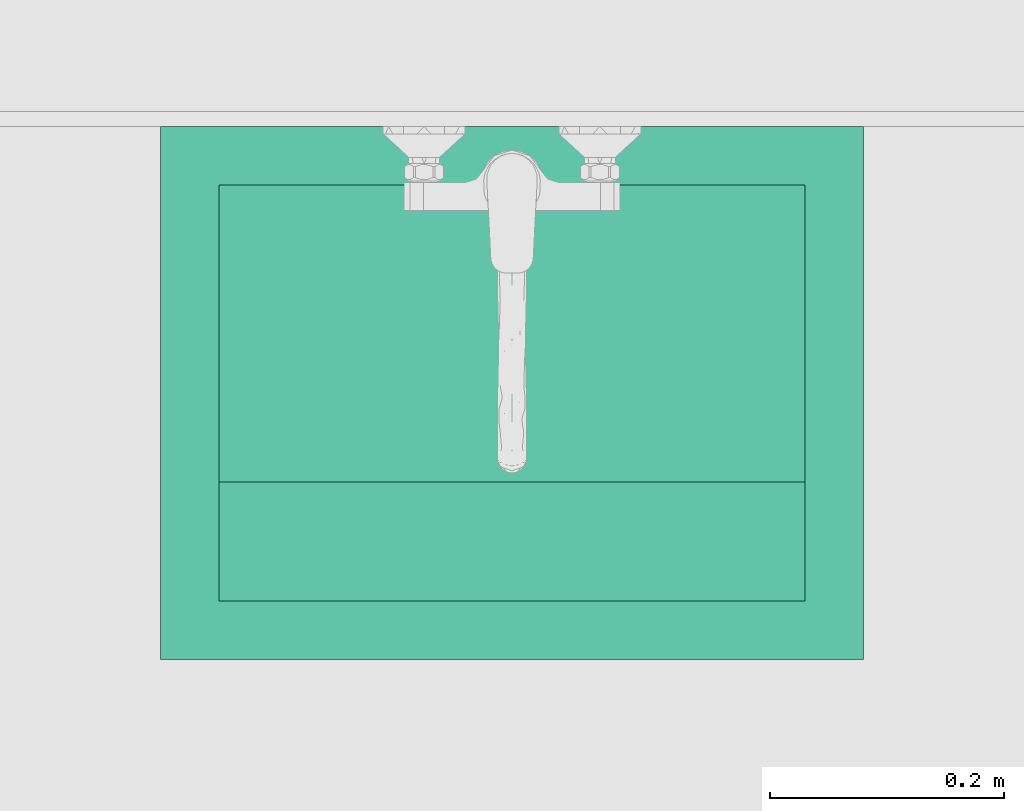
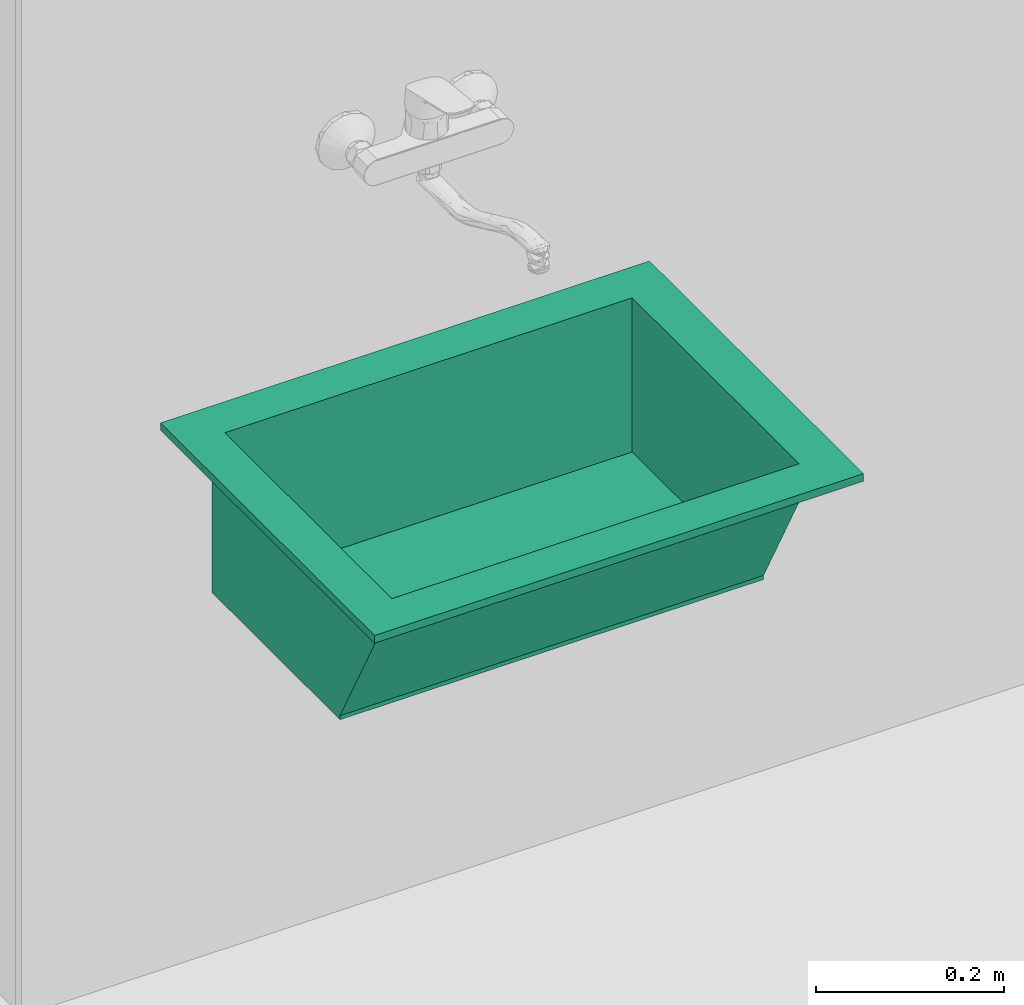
# One storey, part 28 of 67: 1 flow terminal.
"""IFC4 building model written with IfcOpenShell, lengths in millimetres."""

import ifcopenshell
import ifcopenshell.guid

model = None  # the IFC model being written
_history = None  # IfcOwnerHistory: only IFC2X3 demands one
_inside = {}  # id of a spatial element -> (the spatial element, [elements in it])
_under = {}  # id of a project, library or spatial element -> (it, [spatial elements below it])
_declared = {}  # id of a project -> (the project, [libraries it declares])
_typed = {}  # id of a type object -> (the type object, [elements of that type])
_made_of = {}  # id of a material, layer set ... -> (it, [elements and type objects made of it])


def new_model(schema):
    """Start an empty IFC model of exactly this schema.

    Asked for "IFC4X3", IfcOpenShell would pick the latest addendum, in which some entities
    have other attributes; the version numbers below select the first issue.
    IFC2X3 requires an IfcOwnerHistory on every rooted entity: one is made here for all.
    """
    global model, _history
    if schema == "IFC4X3":
        model = ifcopenshell.file(schema_version=(4, 3, 0, 0))
    else:
        model = ifcopenshell.file(schema=schema)
    _inside.clear()
    _under.clear()
    _declared.clear()
    _typed.clear()
    _made_of.clear()
    _history = None
    if model.schema == "IFC2X3":
        org = make("IfcOrganization", Name="unknown")
        user = make(
            "IfcPersonAndOrganization",
            ThePerson=make("IfcPerson", FamilyName="unknown"),
            TheOrganization=org,
        )
        app = make(
            "IfcApplication",
            ApplicationDeveloper=org,
            Version="unknown",
            ApplicationFullName="unknown",
            ApplicationIdentifier="unknown",
        )
        _history = make(
            "IfcOwnerHistory",
            OwningUser=user,
            OwningApplication=app,
            ChangeAction="ADDED",
            CreationDate=0,
        )
    return model


def make(cls, **values):
    """One entity of the class cls with the attributes given. An attribute that is None is left unset."""
    return model.create_entity(
        cls, **{name: value for name, value in values.items() if value is not None}
    )


def entity(cls, *values):
    """Any entity or typed value of the class cls, its attributes in the order of the schema. None: left unset."""
    e = model.create_entity(cls)
    for i, value in enumerate(values):
        if value is not None:
            e[i] = value
    return e


def rooted(cls, **values):
    """An entity with a GlobalId (a new one), such as an element, a storey or a relation."""
    return make(cls, GlobalId=ifcopenshell.guid.new(), OwnerHistory=_history, **values)


def si_unit(unit_type, name, prefix=None):
    """IfcSIUnit, for example si_unit("LENGTHUNIT", "METRE", prefix="MILLI")."""
    return make("IfcSIUnit", UnitType=unit_type, Prefix=prefix, Name=name)


def converted_unit(unit_type, name, factor, base, dimensions=None, offset=None):
    """IfcConversionBasedUnit, such as the inch: factor (a typed value) times the base unit."""
    return make(
        "IfcConversionBasedUnit"
        if offset is None
        else "IfcConversionBasedUnitWithOffset",
        ConversionOffset=offset,
        Dimensions=None
        if dimensions is None
        else entity("IfcDimensionalExponents", *dimensions),
        UnitType=unit_type,
        Name=name,
        ConversionFactor=make(
            "IfcMeasureWithUnit", ValueComponent=factor, UnitComponent=base
        ),
    )


def assignment(units):
    """IfcUnitAssignment: the units of a project."""
    return None if units is None else make("IfcUnitAssignment", Units=units)


def point(xyz):
    """IfcCartesianPoint."""
    return None if xyz is None else make("IfcCartesianPoint", Coordinates=xyz)


def direction(xyz):
    """IfcDirection."""
    return None if xyz is None else make("IfcDirection", DirectionRatios=xyz)


def frame(location, z_axis=None, x_axis=None):
    """IfcAxis2Placement3D, a coordinate frame: its origin and axes. An axis left out is left unset."""
    return make(
        "IfcAxis2Placement3D",
        Location=point(location),
        Axis=direction(z_axis),
        RefDirection=direction(x_axis),
    )


def origin():
    """The frame at (0, 0, 0) with its axes left unset."""
    return frame((0.0, 0.0, 0.0))


def place(relative_to, where):
    """IfcLocalPlacement: puts the frame where relative to a parent placement (None: the world)."""
    return make(
        "IfcLocalPlacement", PlacementRelTo=relative_to, RelativePlacement=where
    )


def context(
    kind, dimensions, precision=None, world=None, true_north=None, identifier=None
):
    """IfcGeometricRepresentationContext, for example the 3D "Model" context."""
    return make(
        "IfcGeometricRepresentationContext",
        ContextIdentifier=identifier,
        ContextType=kind,
        CoordinateSpaceDimension=dimensions,
        Precision=precision,
        WorldCoordinateSystem=world,
        TrueNorth=true_north,
    )


def subcontext(parent, identifier, kind, view, scale=None):
    """IfcGeometricRepresentationSubContext, for example "Body" below "Model"."""
    return make(
        "IfcGeometricRepresentationSubContext",
        ContextIdentifier=identifier,
        ContextType=kind,
        ParentContext=parent,
        TargetScale=scale,
        TargetView=view,
    )


def project(units=None, contexts=None):
    """IfcProject with its units and contexts."""
    return rooted(
        "IfcProject",
        Name="project",
        RepresentationContexts=contexts,
        UnitsInContext=assignment(units),
    )


def spatial(cls, under=None, at=None, **own):
    """A site, building, storey or space (cls), placed at a placement, below another one or the project."""
    s = rooted(cls, ObjectPlacement=at, **own)
    if under is not None:
        _under.setdefault(under.id(), (under, []))[1].append(s)
    return s


def point_list(points):
    """IfcCartesianPointList2D or 3D."""
    cls = (
        "IfcCartesianPointList2D" if len(points[0]) == 2 else "IfcCartesianPointList3D"
    )
    return make(cls, CoordList=points)


def indexed_curve(points, segments=None, self_intersect=None):
    """IfcIndexedPolyCurve: lines and arcs through numbered points (the first is 1)."""
    return make(
        "IfcIndexedPolyCurve",
        Points=point_list(points),
        Segments=segments,
        SelfIntersect=self_intersect,
    )


def outline(outer, holes=None, kind="AREA"):
    """IfcArbitraryClosedProfileDef: a profile drawn as a closed curve; with holes, ...WithVoids."""
    if holes is None:
        return make("IfcArbitraryClosedProfileDef", ProfileType=kind, OuterCurve=outer)
    return make(
        "IfcArbitraryProfileDefWithVoids",
        ProfileType=kind,
        OuterCurve=outer,
        InnerCurves=holes,
    )


def extrude(swept, where, along, depth):
    """IfcExtrudedAreaSolid: the profile swept, set in the frame where, extruded along a direction by depth."""
    return make(
        "IfcExtrudedAreaSolid",
        SweptArea=swept,
        Position=where,
        ExtrudedDirection=direction(along),
        Depth=depth,
    )


def shape(context_of_items, identifier, shape_type, items):
    """IfcShapeRepresentation: the items that make up one representation, for example the "Body"."""
    return make(
        "IfcShapeRepresentation",
        ContextOfItems=context_of_items,
        RepresentationIdentifier=identifier,
        RepresentationType=shape_type,
        Items=items,
    )


def source(mapping_origin, context_of_items, identifier, shape_type, items):
    """IfcRepresentationMap: a shape defined once, which mapped items show again and again."""
    return make(
        "IfcRepresentationMap",
        MappingOrigin=mapping_origin,
        MappedRepresentation=shape(context_of_items, identifier, shape_type, items),
    )


def transform(
    local_origin,
    x_axis=None,
    y_axis=None,
    z_axis=None,
    scale=None,
    scale2=None,
    scale3=None,
    uniform=True,
):
    """IfcCartesianTransformationOperator3D, or its non-uniform kind. x_axis, y_axis, z_axis: its Axis1, 2, 3."""
    if uniform:
        return make(
            "IfcCartesianTransformationOperator3D",
            Axis1=direction(x_axis),
            Axis2=direction(y_axis),
            LocalOrigin=point(local_origin),
            Scale=scale,
            Axis3=direction(z_axis),
        )
    return make(
        "IfcCartesianTransformationOperator3DnonUniform",
        Axis1=direction(x_axis),
        Axis2=direction(y_axis),
        LocalOrigin=point(local_origin),
        Scale=scale,
        Axis3=direction(z_axis),
        Scale2=scale2,
        Scale3=scale3,
    )


def mapped(mapping_source, mapping_target):
    """IfcMappedItem: shows the shape of a source again, moved by a transform."""
    return make(
        "IfcMappedItem", MappingSource=mapping_source, MappingTarget=mapping_target
    )


def material(Name=None, Category=None):
    """IfcMaterial."""
    return make("IfcMaterial", Name=Name, Category=Category)


def made_of(thing, what):
    """Note that an element or type object is made of a material, layer set ...; save() writes the relation."""
    if what is not None:
        _made_of.setdefault(what.id(), (what, []))[1].append(thing)
    return thing


def type_object(cls, material=None, **own):
    """A type object (cls), such as IfcWallType, which elements share."""
    return made_of(rooted(cls, **own), material)


def type_shapes(of_type, sources):
    """Give a type object the sources (RepresentationMaps) that its elements show as mapped items."""
    of_type.RepresentationMaps = sources


def element(
    cls,
    number,
    at=None,
    inside=None,
    cuts=None,
    type_object=None,
    material=None,
    context=None,
    identifier="Body",
    shape_type=None,
    held_by="IfcProductDefinitionShape",
    body=None,
    shapes=None,
    **own,
):
    """One element of the class cls, such as IfcWall. Its Tag is "e" and its number.

    at: its placement. inside: the storey or other place that contains it. cuts: it is an
    opening in that element (IfcRelVoidsElement). A single representation is given by context,
    identifier, shape_type and body (its items); several are given by shapes. held_by: the class
    of the entity that holds the representations. save() writes the other relations.
    """
    e = rooted(cls, Tag="e%d" % number, ObjectPlacement=at, **own)
    if body is not None:
        shapes = [shape(context, identifier, shape_type, body)]
    if shapes is not None:
        e.Representation = make(held_by, Representations=shapes)
    if inside is not None:
        _inside.setdefault(inside.id(), (inside, []))[1].append(e)
    if cuts is not None:
        rooted(
            "IfcRelVoidsElement", RelatingBuildingElement=cuts, RelatedOpeningElement=e
        )
    if type_object is not None:
        _typed.setdefault(type_object.id(), (type_object, []))[1].append(e)
    return made_of(e, material)


def aggregate(whole, parts):
    """IfcRelAggregates: a whole, such as a stair, and the parts it consists of."""
    return rooted("IfcRelAggregates", RelatingObject=whole, RelatedObjects=parts)


def save(model, path):
    """Write the relations noted so far, then the file.

    IfcRelAggregates (storeys below a building ...), IfcRelContainedInSpatialStructure (elements
    in a storey), IfcRelDefinesByType, IfcRelAssociatesMaterial and IfcRelDeclares: one each for
    every whole, place, type object, material and project.
    """
    for whole, parts in _under.values():
        aggregate(whole, parts)
    for where, things in _inside.values():
        rooted(
            "IfcRelContainedInSpatialStructure",
            RelatedElements=things,
            RelatingStructure=where,
        )
    for kind, things in _typed.values():
        rooted("IfcRelDefinesByType", RelatedObjects=things, RelatingType=kind)
    for what, things in _made_of.values():
        rooted("IfcRelAssociatesMaterial", RelatedObjects=things, RelatingMaterial=what)
    for by, libraries in _declared.values():
        rooted("IfcRelDeclares", RelatingContext=by, RelatedDefinitions=libraries)
    model.write(path)


model = new_model("IFC4")

# Units and contexts
model_context = context("Model", 3, precision=0.01, world=origin(), true_north=direction((0.0, 1.0)))
body_context = subcontext(model_context, "Body", "Model", "MODEL_VIEW")
ifc_project = project(units=[si_unit("LENGTHUNIT", "METRE", prefix="MILLI"), si_unit("AREAUNIT", "SQUARE_METRE"), si_unit("VOLUMEUNIT", "CUBIC_METRE"), converted_unit("PLANEANGLEUNIT", "DEGREE", entity("IfcPlaneAngleMeasure", 0.017453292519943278), si_unit("PLANEANGLEUNIT", "RADIAN"), dimensions=[0, 0, 0, 0, 0, 0, 0])], contexts=[model_context])

# Site, building, storey, space
site_placement = place(None, origin())
site = spatial("IfcSite", under=ifc_project, at=site_placement, Name="Tomtens navn", CompositionType="ELEMENT")
building_placement = place(site_placement, origin())
building = spatial("IfcBuilding", under=site, at=building_placement, Name="Byggets navn", CompositionType="ELEMENT")
storey_placement = place(building_placement, origin())
storey = spatial("IfcBuildingStorey", under=building, at=storey_placement, Name="Level 01", CompositionType="ELEMENT", Elevation=2.1993652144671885e-25)
space_placement = place(storey_placement, origin())
space = spatial("IfcSpace", under=storey, at=space_placement, Name="131", CompositionType="ELEMENT", PredefinedType="NOTDEFINED")

# Flow terminal
ifc_material = material(Name="Metal - Aluminium", Category="Unassigned")
distribution_element_type = type_object("IfcDistributionElementType", Name="Sink_03:Middels", material=ifc_material)
shared_shape = source(origin(), body_context, "Body", "SweptSolid", [
    extrude(outline(indexed_curve([(-227.50000000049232, -300.0), (227.50000000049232, -300.0), (227.50000000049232, 300.0), (-227.50000000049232, 300.0), (-227.50000000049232, -300.0)], self_intersect=False), holes=[indexed_curve([(-177.50000000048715, -249.99999999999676), (-177.50000000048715, 250.00000000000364), (177.50000000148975, 250.00000000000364), (177.50000000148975, -249.99999999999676), (-177.50000000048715, -249.99999999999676)], self_intersect=False)]), frame((94.41156576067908, 84.42530613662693, 890.0), z_axis=(0.0, 0.0, 1.0), x_axis=(0.0, -1.0, 0.0)), (0.0, 0.0, 1.0), 10.000000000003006),
    extrude(outline(indexed_curve([(-250.00000000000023, -4.999999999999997), (250.00000000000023, -4.999999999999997), (250.00000000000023, 4.999999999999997), (-250.00000000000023, 4.999999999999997), (-250.00000000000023, -4.999999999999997)], self_intersect=False)), frame((94.411565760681, -98.07469386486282, 700.0), z_axis=(0.0, 0.0, 1.0), x_axis=(-1.0, 0.0, 0.0)), (0.0, 0.0, 1.0), 190.0000000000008),
    extrude(outline(indexed_curve([(-207.91666666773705, -94.99999999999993), (157.08333333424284, -94.99999999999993), (157.08333333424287, 95.00000000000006), (-106.25000000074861, 95.00000000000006), (-207.91666666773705, -94.99999999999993)], self_intersect=False)), frame((344.41156576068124, 54.008639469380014, 795.0), z_axis=(1.0, 0.0, 0.0), x_axis=(0.0, -1.0, 0.0)), (0.0, 0.0, 1.0), 9.999999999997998),
    extrude(outline(indexed_curve([(-207.91666666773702, -94.99999999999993), (157.08333333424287, -94.99999999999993), (157.08333333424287, 95.00000000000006), (-106.25000000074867, 95.00000000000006), (-207.91666666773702, -94.99999999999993)], self_intersect=False)), frame((-165.5884342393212, 54.008639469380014, 795.0), z_axis=(1.0, 0.0, 0.0), x_axis=(0.0, -1.0, 0.0)), (0.0, 0.0, 1.0), 10.000000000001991),
    extrude(outline(indexed_curve([(-5.000000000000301, -107.74519839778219), (4.999999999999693, -107.74519839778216), (5.000000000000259, 107.74519839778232), (-4.999999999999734, 107.7451983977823), (-5.000000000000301, -107.74519839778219)], self_intersect=False)), frame((-165.5884342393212, 215.50052192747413, 792.6410395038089), z_axis=(1.0, 0.0, 0.0), x_axis=(0.0, -0.8817098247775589, 0.4717920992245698)), (0.0, 0.0, 1.0), 520.0000000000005),
    extrude(outline(indexed_curve([(-136.07521579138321, -260.0000000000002), (136.07521579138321, -260.0000000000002), (136.07521579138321, 260.0000000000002), (-136.07521579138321, 260.0000000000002), (-136.07521579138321, -260.0000000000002)], self_intersect=False)), frame((94.41156576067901, 33.000521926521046, 690.0), z_axis=(0.0, 0.0, 1.0), x_axis=(0.0, 1.0, 0.0)), (0.0, 0.0, 1.0), 10.000000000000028),
])
type_shapes(distribution_element_type, [shared_shape])
flow_terminal_placement = place(space_placement, frame((48017.46011002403, 21097.39176306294, -190.0), z_axis=(0.0, 0.0, 1.0), x_axis=(-1.0, 0.0, 0.0)))
element("IfcFlowTerminal", 1, at=flow_terminal_placement, inside=space, type_object=distribution_element_type, material=ifc_material, Name="Sink_03:Middels", context=body_context, shape_type="MappedRepresentation", body=[
    mapped(shared_shape, transform((0.0, 0.0, 0.0), scale=1.0)),
])

save(model, "model.ifc")
